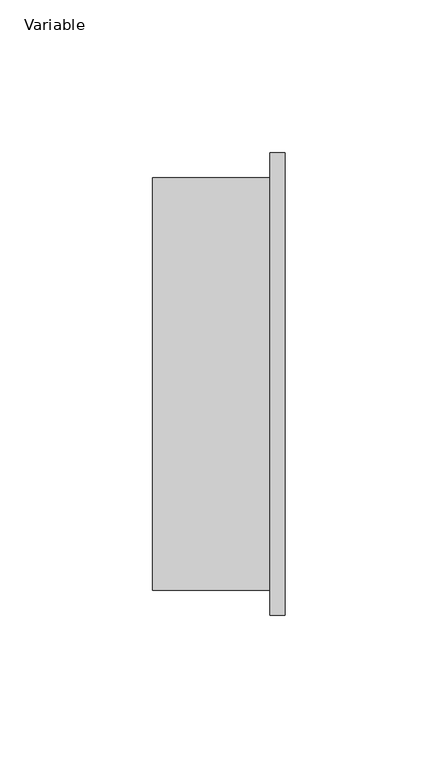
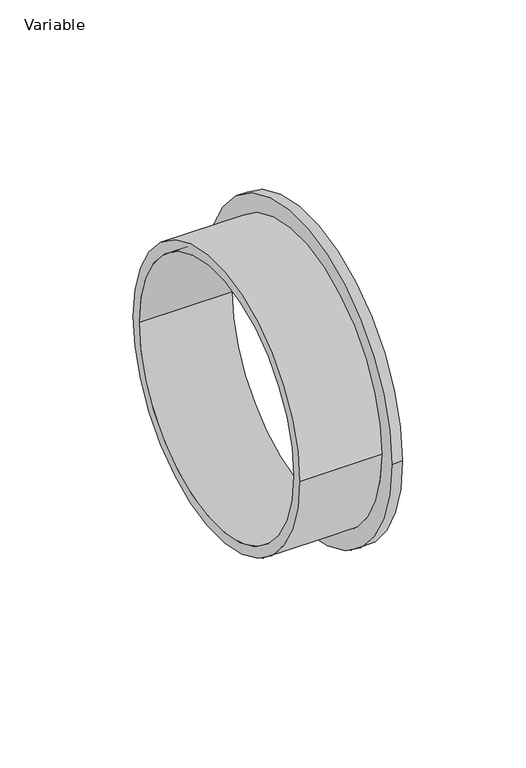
"""IFC4 building model written with IfcOpenShell, lengths in millimetres: pipe fitting geometry, AliaxisFR_Friaphon_TransitionAdaptor_FR : Variable."""

from ifc_helpers import new_model, si_unit, frame, origin, place, context, project, spatial, polyline, circle_curve, source, transform, mapped, element, save
from ifc_brep_helpers import plane_surface, cylinder_surface, revolved_surface, advanced_brep


def variable_1c86cd58(model_context):
    return source(origin(), model_context, "Body", "AdvancedBrep", [
        advanced_brep(
        [(43.5, -75.75, 0.0), (43.5, 75.75, 0.0), (43.5, -62.5, 0.0), (43.5, 62.5, 0.0), (0.0, -67.5, 0.0), (0.0, 67.5, 0.0), (0.0, -62.5, 0.0), (0.0, 62.5, 0.0), (38.5, 67.5, 0.0), (38.5, -67.5, 0.0), (38.5, -75.75, 0.0), (38.5, 75.75, 0.0)],
        [
            (0, 1, circle_curve(frame((43.5, 0.0, 0.0), z_axis=(1.0, 0.0, 0.0), x_axis=(0.0, 1.0, 0.0)), 75.75)),
            (1, 0, circle_curve(frame((43.5, 0.0, 0.0), z_axis=(1.0, 0.0, 0.0), x_axis=(0.0, 1.0, 0.0)), 75.75)),
            (2, 3, circle_curve(frame((43.5, 0.0, 0.0), z_axis=(-1.0, 0.0, 0.0), x_axis=(0.0, 1.0, 0.0)), 62.5)),
            (3, 2, circle_curve(frame((43.5, 0.0, 0.0), z_axis=(-1.0, 0.0, 0.0), x_axis=(0.0, 1.0, 0.0)), 62.5)),
            (4, 5, circle_curve(frame((0.0, 0.0, 0.0), z_axis=(-1.0, 0.0, 0.0), x_axis=(0.0, 1.0, 0.0)), 67.5)),
            (5, 4, circle_curve(frame((0.0, 0.0, 0.0), z_axis=(-1.0, 0.0, 0.0), x_axis=(0.0, 1.0, 0.0)), 67.5)),
            (6, 7, circle_curve(frame((0.0, 0.0, 0.0), z_axis=(1.0, 0.0, 0.0), x_axis=(0.0, 1.0, 0.0)), 62.5)),
            (7, 6, circle_curve(frame((0.0, 0.0, 0.0), z_axis=(1.0, 0.0, 0.0), x_axis=(0.0, 1.0, 0.0)), 62.5)),
            (2, 6),
            (7, 3),
            (5, 8),
            (8, 9, circle_curve(frame((38.5, 0.0, 0.0), z_axis=(-1.0, 0.0, 0.0), x_axis=(0.0, 1.0, 0.0)), 67.5)),
            (9, 4),
            (9, 8, circle_curve(frame((38.5, 0.0, 0.0), z_axis=(-1.0, 0.0, 0.0), x_axis=(0.0, 1.0, 0.0)), 67.5)),
            (10, 11, circle_curve(frame((38.5, 0.0, 0.0), z_axis=(-1.0, 0.0, 0.0), x_axis=(0.0, 1.0, 0.0)), 75.75)),
            (11, 10, circle_curve(frame((38.5, 0.0, 0.0), z_axis=(-1.0, 0.0, 0.0), x_axis=(0.0, 1.0, 0.0)), 75.75)),
            (0, 10),
            (11, 1),
        ],
        [
            plane_surface(frame((43.5, 62.5, 0.0), z_axis=(1.0, 0.0, 0.0), x_axis=(0.0, 0.0, -1.0))),
            plane_surface(frame((0.0, 62.5, 0.0), z_axis=(-1.0, 0.0, 0.0), x_axis=(0.0, 0.0, 1.0))),
            revolved_surface(polyline([(0.0, 62.5, 0.0), (43.5, 62.5, 0.0)]), (0.0, 0.0, 0.0), (-1.0, 0.0, 0.0)),
            cylinder_surface(frame((0.0, 0.0, 0.0), z_axis=(1.0, 0.0, 0.0), x_axis=(0.0, 1.0, 0.0)), 67.5),
            plane_surface(frame((38.5, 75.75, 0.0), z_axis=(-1.0, 0.0, 0.0), x_axis=(0.0, 0.0, -1.0))),
            cylinder_surface(frame((38.5, 0.0, 0.0), z_axis=(1.0, 0.0, 0.0), x_axis=(0.0, 1.0, 0.0)), 75.75),
        ],
        [
            (0, [[1, 2], [3, 4]]),
            (1, [[5, 6], [7, 8]]),
            (2, [[-3, 9, -8, 10]]),
            (2, [[-4, -10, -7, -9]]),
            (3, [[-6, 11, 12, 13]]),
            (3, [[-5, -13, 14, -11]]),
            (4, [[15, 16], [-12, -14]]),
            (5, [[-1, 17, -16, 18]]),
            (5, [[-2, -18, -15, -17]]),
        ],
    ),
    ])


if __name__ == "__main__":
    model = new_model("IFC4")
    model_context = context("Model", 3, world=origin())
    ifc_project = project(units=[si_unit("LENGTHUNIT", "METRE", prefix="MILLI")], contexts=[model_context])
    site = spatial("IfcSite", under=ifc_project)
    building = spatial("IfcBuilding", under=site)
    placement = place(None, origin())
    variable_shape = variable_1c86cd58(model_context)
    element("IfcPipeFitting", 1, ObjectType="AliaxisFR_Friaphon_TransitionAdaptor_FR : Variable", at=placement, inside=building, context=model_context, shape_type="MappedRepresentation", body=[
        mapped(variable_shape, transform((0.0, 0.0, 0.0), x_axis=(1.0, 0.0, 0.0), y_axis=(0.0, 1.0, 0.0), z_axis=(0.0, 0.0, 1.0))),
    ])
    save(model, "model.ifc")
